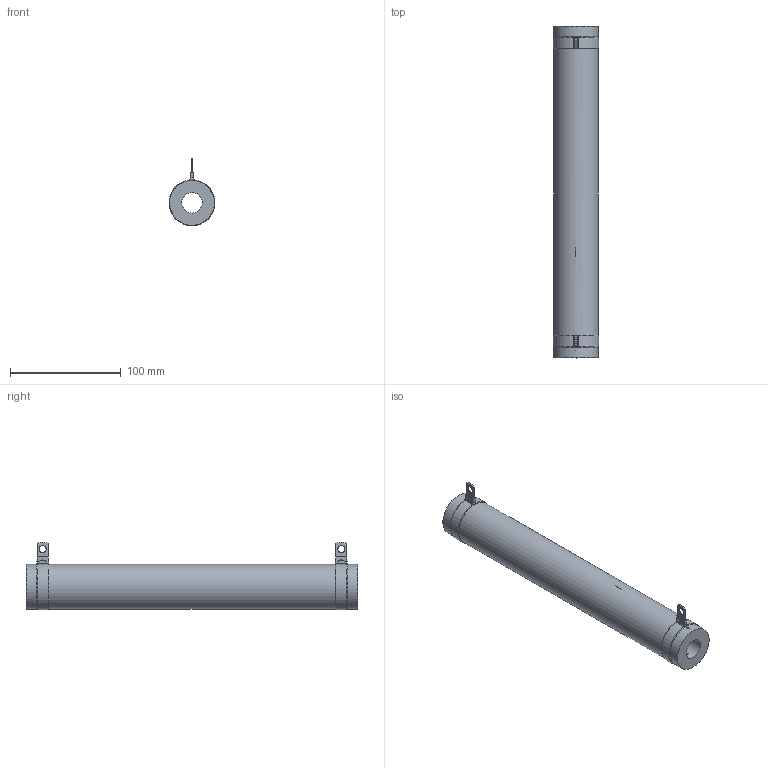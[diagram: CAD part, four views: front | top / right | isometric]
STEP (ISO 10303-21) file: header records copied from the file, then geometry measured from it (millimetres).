
FILE_DESCRIPTION(/* description */ (''),/* implementation_level */ '2;1');
FILE_NAME(/* name */ 'C:\_Vault\Dati\CATALOGO\RCA-RSA\25-1000\CA0400.stp',/* time_stamp */ '2014-01-22T15:23:31+01:00',/* author */ ('stefano'),/* organization */ (''),/* preprocessor_version */ 'ST-DEVELOPER v15.2',/* originating_system */ 'Autodesk Inventor 2014',/* authorisation */ '');
FILE_SCHEMA (('AUTOMOTIVE_DESIGN { 1 0 10303 214 3 1 1 }'));
Length unit declared in the file: millimetre
Products named in the file (1): CA0400
Bounding box: 41.36 x 300 x 60.91 mm (x, y, z)
Volume: 307477.3 mm3; surface area: 59815.4 mm2
Topology: 1 solids, 1 shells, 111 faces, 283 edges, 180 vertices
Faces by surface type: plane 59, cylinder 40, torus 12
Full cylindrical faces by diameter (mm): 3.2 x1, 6.3 x2, 18.5 x1, 40.5 x3
Entity records: 3560 total; most frequent: CARTESIAN_POINT 656, DIRECTION 598, ORIENTED_EDGE 548, EDGE_CURVE 274, AXIS2_PLACEMENT_3D 224, VERTEX_POINT 178, LINE 150, VECTOR 150
